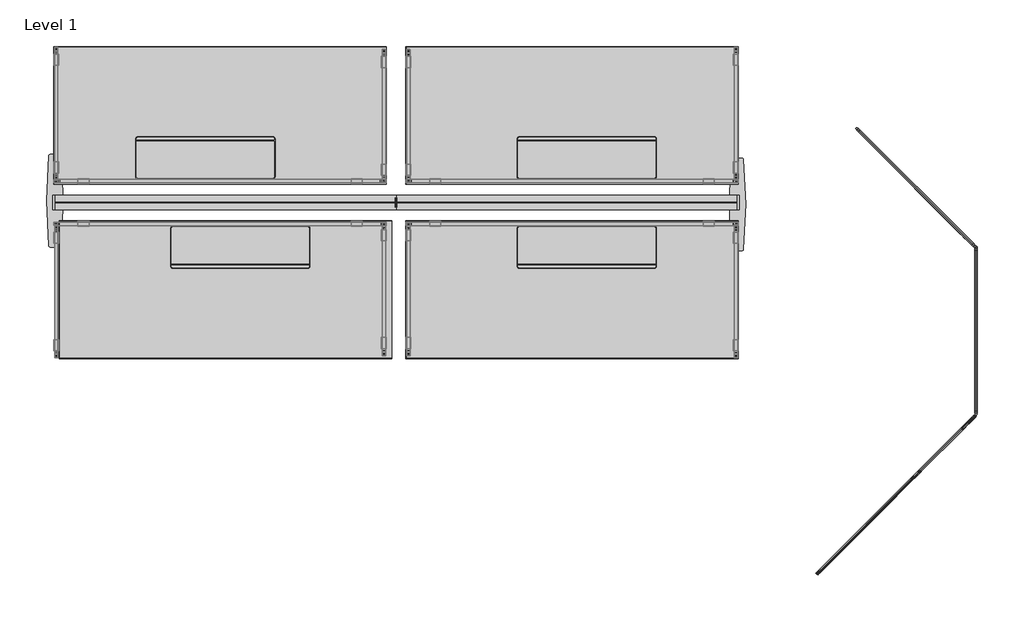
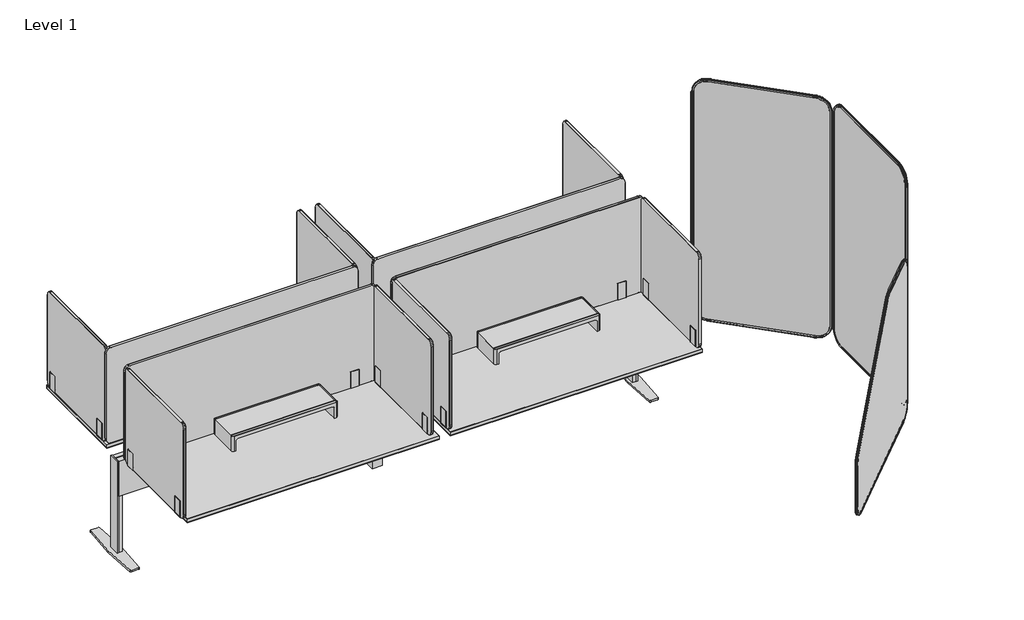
# One storey, incomplete: 19 furniture elements.
"""IFC4 building model written with IfcOpenShell, lengths in millimetres."""

from ifc_helpers import new_model, si_unit, origin, place, context, project, spatial, transform, mapped, element, save
from components import furniture_70w_bd9f5dd2, furniture_70w_9bcf4590, furniture_0ca4453a, furniture_cb9507ce, no_shelf_d7dae3b1, no_shelf_664b266c, steelcase_answer_fence_foot_panel_foot_panel_0da6e12f, steelcase_answer_fence_72w_6aa8a157, steelcase_answer_fence_72w_f308af9f, steelcase_flex_screen_freestanding_71h_63d7caac, steelcase_flex_screen_freestanding_angled_8fabaf15

model = new_model("IFC4")

# Units and contexts
model_context = context("Model", 3, world=origin())
ifc_project = project(units=[si_unit("LENGTHUNIT", "METRE", prefix="MILLI")], contexts=[model_context])

# Site, building, storey
site = spatial("IfcSite", under=ifc_project)
building = spatial("IfcBuilding", under=site)
storey = spatial("IfcBuildingStorey", under=building, Name="Level 1", Elevation=0.0)

# Furniture
placement = place(None, origin())
furniture_70w_shape = furniture_70w_bd9f5dd2(model_context)
element("IfcFurniture", 1, ObjectType="Steelcase - Ology - Desk Electric - Rectangular - 29D : 70W", at=placement, inside=storey, context=model_context, shape_type="MappedRepresentation", body=[
    mapped(furniture_70w_shape, transform((-39260.8601495, -193861.7699311, 0.0), x_axis=(1.0, 0.0, 0.0), y_axis=(0.0, 1.0, 0.0), z_axis=(0.0, 0.0, 1.0))),
])
element("IfcFurniture", 2, ObjectType="Steelcase - Ology - Desk Electric - Rectangular - 29D : 70W", at=placement, inside=storey, context=model_context, shape_type="MappedRepresentation", body=[
    mapped(furniture_70w_shape, transform((-37406.6601495, -193861.7699311, 0.0), x_axis=(1.0, 0.0, 0.0), y_axis=(0.0, 1.0, 0.0), z_axis=(0.0, 0.0, 1.0))),
])
element("IfcFurniture", 3, ObjectType="Steelcase - Ology - Desk Electric - Rectangular - 29D : 70W", at=placement, inside=storey, context=model_context, shape_type="MappedRepresentation", body=[
    mapped(furniture_70w_shape, transform((-38985.5241495, -193095.6047344, 0.0), x_axis=(-1.0, 0.0, 0.0), y_axis=(0.0, -1.0, 0.0), z_axis=(0.0, 0.0, 1.0))),
])
furniture_70w_2_shape = furniture_70w_9bcf4590(model_context)
element("IfcFurniture", 4, ObjectType="Steelcase - Ology - Desk Electric - Rectangular - 29D : 70W", at=placement, inside=storey, context=model_context, shape_type="MappedRepresentation", body=[
    mapped(furniture_70w_2_shape, transform((-37406.6601495, -193095.6047344, 0.0), x_axis=(1.0, 0.0, 0.0), y_axis=(0.0, 1.0, 0.0), z_axis=(0.0, 0.0, 1.0))),
])
furniture_shape = furniture_0ca4453a(model_context)
element("IfcFurniture", 5, ObjectType="AMQ screens - 28inches : 70.03\" x 28.74\"", at=placement, inside=storey, context=model_context, shape_type="MappedRepresentation", body=[
    mapped(furniture_shape, transform((-39137.9241495, -193012.3047345, 739.9019665), x_axis=(-1.0, 0.0, 0.0), y_axis=(0.0, -1.0, 0.0), z_axis=(0.0, 0.0, 1.0))),
])
element("IfcFurniture", 6, ObjectType="AMQ screens - 28inches : 70.03\" x 28.74\"", at=placement, inside=storey, context=model_context, shape_type="MappedRepresentation", body=[
    mapped(furniture_shape, transform((-37254.2601495, -193945.0699311, 739.9019665), x_axis=(1.0, 0.0, 0.0), y_axis=(0.0, 1.0, 0.0), z_axis=(0.0, 0.0, 1.0))),
])
furniture_2_shape = furniture_cb9507ce(model_context)
element("IfcFurniture", 7, ObjectType="AMQ screens - 28inches : 70.03\" x 28.74\"", at=placement, inside=storey, context=model_context, shape_type="MappedRepresentation", body=[
    mapped(furniture_2_shape, transform((-39137.9241495, -193945.0699311, 739.9019665), x_axis=(-1.0, 0.0, 0.0), y_axis=(0.0, -1.0, 0.0), z_axis=(0.0, 0.0, 1.0))),
])
element("IfcFurniture", 8, ObjectType="AMQ screens - 28inches : 70.03\" x 28.74\"", at=placement, inside=storey, context=model_context, shape_type="MappedRepresentation", body=[
    mapped(furniture_2_shape, transform((-37254.2601495, -193012.3047345, 739.9019665), x_axis=(1.0, 0.0, 0.0), y_axis=(0.0, 1.0, 0.0), z_axis=(0.0, 0.0, 1.0))),
])
no_shelf_shape = no_shelf_d7dae3b1(model_context)
element("IfcFurniture", 9, ObjectType="Steelcase - Worktool - SOTO II - Monitor Bridge : No Shelf", at=placement, inside=storey, context=model_context, shape_type="MappedRepresentation", body=[
    mapped(no_shelf_shape, transform((-39400.5710504, -193833.2747878, 16.002), x_axis=(1.0, 0.0, 0.0), y_axis=(0.0, 1.0, 0.0), z_axis=(0.0, 0.0, 1.0))),
])
element("IfcFurniture", 10, ObjectType="Steelcase - Worktool - SOTO II - Monitor Bridge : No Shelf", at=placement, inside=storey, context=model_context, shape_type="MappedRepresentation", body=[
    mapped(no_shelf_shape, transform((-37546.3710504, -193833.2747878, 16.002), x_axis=(1.0, 0.0, 0.0), y_axis=(0.0, 1.0, 0.0), z_axis=(0.0, 0.0, 1.0))),
])
element("IfcFurniture", 11, ObjectType="Steelcase - Worktool - SOTO II - Monitor Bridge : No Shelf", at=placement, inside=storey, context=model_context, shape_type="MappedRepresentation", body=[
    mapped(no_shelf_shape, transform((-38845.8132486, -193124.0998778, 16.002), x_axis=(-1.0, 0.0, 0.0), y_axis=(0.0, -1.0, 0.0), z_axis=(0.0, 0.0, 1.0))),
])
no_shelf_2_shape = no_shelf_664b266c(model_context)
element("IfcFurniture", 12, ObjectType="Steelcase - Worktool - SOTO II - Monitor Bridge : No Shelf", at=placement, inside=storey, context=model_context, shape_type="MappedRepresentation", body=[
    mapped(no_shelf_2_shape, transform((-37546.3710504, -193124.0998778, 16.002), x_axis=(1.0, 0.0, 0.0), y_axis=(0.0, 1.0, 0.0), z_axis=(0.0, 0.0, 1.0))),
])
steelcase_answer_fence_foot_panel_foot_panel_shape = steelcase_answer_fence_foot_panel_foot_panel_0da6e12f(model_context)
element("IfcFurniture", 13, ObjectType="Steelcase - Answer Fence - Foot Panel : Foot Panel", at=placement, inside=storey, context=model_context, shape_type="MappedRepresentation", body=[
    mapped(steelcase_answer_fence_foot_panel_foot_panel_shape, transform((-40060.9601495, -193545.3156314, 0.0), x_axis=(-1.0000000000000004, 0.0, 0.0), y_axis=(0.0, -1.0000000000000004, 0.0), z_axis=(0.0, 0.0, 1.0))),
])
element("IfcFurniture", 14, ObjectType="Steelcase - Answer Fence - Foot Panel : Foot Panel", at=placement, inside=storey, context=model_context, shape_type="MappedRepresentation", body=[
    mapped(steelcase_answer_fence_foot_panel_foot_panel_shape, transform((-36331.2241495, -193412.0590342, 0.0), x_axis=(1.0, 0.0, 0.0), y_axis=(0.0, 1.0, 0.0), z_axis=(0.0, 0.0, 1.0))),
])
steelcase_answer_fence_72w_shape = steelcase_answer_fence_72w_6aa8a157(model_context)
element("IfcFurniture", 15, ObjectType="Steelcase - Answer Fence : 72W", at=placement, inside=storey, context=model_context, shape_type="MappedRepresentation", body=[
    mapped(steelcase_answer_fence_72w_shape, transform((-39984.7601495, -193471.2705314, 0.0), x_axis=(1.0, 0.0, 0.0), y_axis=(0.0, 1.0, 0.0), z_axis=(0.0, 0.0, 1.0))),
])
steelcase_answer_fence_72w_2_shape = steelcase_answer_fence_72w_f308af9f(model_context)
element("IfcFurniture", 16, ObjectType="Steelcase - Answer Fence : 72W", at=placement, inside=storey, context=model_context, shape_type="MappedRepresentation", body=[
    mapped(steelcase_answer_fence_72w_2_shape, transform((-38157.9921495, -193471.2705314, 0.0), x_axis=(1.0, 0.0, 0.0), y_axis=(0.0, 1.0, 0.0), z_axis=(0.0, 0.0, 1.0))),
])
steelcase_flex_screen_freestanding_71h_shape = steelcase_flex_screen_freestanding_71h_63d7caac(model_context)
element("IfcFurniture", 17, ObjectType="Steelcase - Flex - Screen - Freestanding : 71H", at=placement, inside=storey, context=model_context, shape_type="MappedRepresentation", body=[
    mapped(steelcase_flex_screen_freestanding_71h_shape, transform((-35734.3354499, -193079.2615588, 0.0), x_axis=(0.7071067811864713, -0.7071067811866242, 0.0), y_axis=(0.7071067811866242, 0.7071067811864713, 0.0), z_axis=(0.0, 0.0, 1.0))),
])
element("IfcFurniture", 18, ObjectType="Steelcase - Flex - Screen - Freestanding : 71H", at=placement, inside=storey, context=model_context, shape_type="MappedRepresentation", body=[
    mapped(steelcase_flex_screen_freestanding_71h_shape, transform((-35092.1573347, -193712.8313923, 0.0), x_axis=(0.0, -1.0000000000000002, 0.0), y_axis=(1.0000000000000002, 0.0, 0.0), z_axis=(0.0, 0.0, 1.0))),
])
steelcase_flex_screen_freestanding_angled_shape = steelcase_flex_screen_freestanding_angled_8fabaf15(model_context)
element("IfcFurniture", 19, ObjectType="Steelcase - Flex - Screen - Freestanding : Angled", at=placement, inside=storey, context=model_context, shape_type="MappedRepresentation", body=[
    mapped(steelcase_flex_screen_freestanding_angled_shape, transform((-35093.0553603, -194614.9214179, 0.0), x_axis=(-0.7071067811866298, -0.7071067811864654, 0.0), y_axis=(0.7071067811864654, -0.7071067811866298, 0.0), z_axis=(0.0, 0.0, 1.0))),
])

save(model, "model.ifc")
